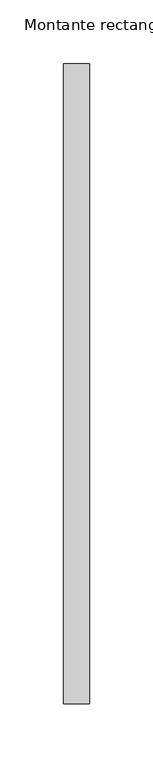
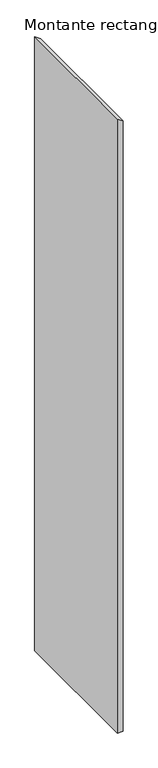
"""IFC4 building model written with IfcOpenShell, lengths in millimetres: member geometry, Montante rectangular : CIRCLES."""

import ifcopenshell
import ifcopenshell.guid

model = None  # the IFC model being written
_history = None  # IfcOwnerHistory: only IFC2X3 demands one
_inside = {}  # id of a spatial element -> (the spatial element, [elements in it])
_under = {}  # id of a project, library or spatial element -> (it, [spatial elements below it])
_declared = {}  # id of a project -> (the project, [libraries it declares])
_typed = {}  # id of a type object -> (the type object, [elements of that type])
_made_of = {}  # id of a material, layer set ... -> (it, [elements and type objects made of it])


def new_model(schema):
    """Start an empty IFC model of exactly this schema.

    Asked for "IFC4X3", IfcOpenShell would pick the latest addendum, in which some entities
    have other attributes; the version numbers below select the first issue.
    IFC2X3 requires an IfcOwnerHistory on every rooted entity: one is made here for all.
    """
    global model, _history
    if schema == "IFC4X3":
        model = ifcopenshell.file(schema_version=(4, 3, 0, 0))
    else:
        model = ifcopenshell.file(schema=schema)
    _inside.clear()
    _under.clear()
    _declared.clear()
    _typed.clear()
    _made_of.clear()
    _history = None
    if model.schema == "IFC2X3":
        org = make("IfcOrganization", Name="unknown")
        user = make(
            "IfcPersonAndOrganization",
            ThePerson=make("IfcPerson", FamilyName="unknown"),
            TheOrganization=org,
        )
        app = make(
            "IfcApplication",
            ApplicationDeveloper=org,
            Version="unknown",
            ApplicationFullName="unknown",
            ApplicationIdentifier="unknown",
        )
        _history = make(
            "IfcOwnerHistory",
            OwningUser=user,
            OwningApplication=app,
            ChangeAction="ADDED",
            CreationDate=0,
        )
    return model


def make(cls, **values):
    """One entity of the class cls with the attributes given. An attribute that is None is left unset."""
    return model.create_entity(
        cls, **{name: value for name, value in values.items() if value is not None}
    )


def rooted(cls, **values):
    """An entity with a GlobalId (a new one), such as an element, a storey or a relation."""
    return make(cls, GlobalId=ifcopenshell.guid.new(), OwnerHistory=_history, **values)


def si_unit(unit_type, name, prefix=None):
    """IfcSIUnit, for example si_unit("LENGTHUNIT", "METRE", prefix="MILLI")."""
    return make("IfcSIUnit", UnitType=unit_type, Prefix=prefix, Name=name)


def assignment(units):
    """IfcUnitAssignment: the units of a project."""
    return None if units is None else make("IfcUnitAssignment", Units=units)


def point(xyz):
    """IfcCartesianPoint."""
    return None if xyz is None else make("IfcCartesianPoint", Coordinates=xyz)


def direction(xyz):
    """IfcDirection."""
    return None if xyz is None else make("IfcDirection", DirectionRatios=xyz)


def frame(location, z_axis=None, x_axis=None):
    """IfcAxis2Placement3D, a coordinate frame: its origin and axes. An axis left out is left unset."""
    return make(
        "IfcAxis2Placement3D",
        Location=point(location),
        Axis=direction(z_axis),
        RefDirection=direction(x_axis),
    )


def origin():
    """The frame at (0, 0, 0) with its axes left unset."""
    return frame((0.0, 0.0, 0.0))


def place(relative_to, where):
    """IfcLocalPlacement: puts the frame where relative to a parent placement (None: the world)."""
    return make(
        "IfcLocalPlacement", PlacementRelTo=relative_to, RelativePlacement=where
    )


def context(
    kind, dimensions, precision=None, world=None, true_north=None, identifier=None
):
    """IfcGeometricRepresentationContext, for example the 3D "Model" context."""
    return make(
        "IfcGeometricRepresentationContext",
        ContextIdentifier=identifier,
        ContextType=kind,
        CoordinateSpaceDimension=dimensions,
        Precision=precision,
        WorldCoordinateSystem=world,
        TrueNorth=true_north,
    )


def project(units=None, contexts=None):
    """IfcProject with its units and contexts."""
    return rooted(
        "IfcProject",
        Name="project",
        RepresentationContexts=contexts,
        UnitsInContext=assignment(units),
    )


def spatial(cls, under=None, at=None, **own):
    """A site, building, storey or space (cls), placed at a placement, below another one or the project."""
    s = rooted(cls, ObjectPlacement=at, **own)
    if under is not None:
        _under.setdefault(under.id(), (under, []))[1].append(s)
    return s


def polyline(points):
    """IfcPolyline through the points."""
    return make("IfcPolyline", Points=[point(p) for p in points])


def outline(outer, holes=None, kind="AREA"):
    """IfcArbitraryClosedProfileDef: a profile drawn as a closed curve; with holes, ...WithVoids."""
    if holes is None:
        return make("IfcArbitraryClosedProfileDef", ProfileType=kind, OuterCurve=outer)
    return make(
        "IfcArbitraryProfileDefWithVoids",
        ProfileType=kind,
        OuterCurve=outer,
        InnerCurves=holes,
    )


def extrude(swept, where, along, depth):
    """IfcExtrudedAreaSolid: the profile swept, set in the frame where, extruded along a direction by depth."""
    return make(
        "IfcExtrudedAreaSolid",
        SweptArea=swept,
        Position=where,
        ExtrudedDirection=direction(along),
        Depth=depth,
    )


def shape(context_of_items, identifier, shape_type, items):
    """IfcShapeRepresentation: the items that make up one representation, for example the "Body"."""
    return make(
        "IfcShapeRepresentation",
        ContextOfItems=context_of_items,
        RepresentationIdentifier=identifier,
        RepresentationType=shape_type,
        Items=items,
    )


def source(mapping_origin, context_of_items, identifier, shape_type, items):
    """IfcRepresentationMap: a shape defined once, which mapped items show again and again."""
    return make(
        "IfcRepresentationMap",
        MappingOrigin=mapping_origin,
        MappedRepresentation=shape(context_of_items, identifier, shape_type, items),
    )


def transform(
    local_origin,
    x_axis=None,
    y_axis=None,
    z_axis=None,
    scale=None,
    scale2=None,
    scale3=None,
    uniform=True,
):
    """IfcCartesianTransformationOperator3D, or its non-uniform kind. x_axis, y_axis, z_axis: its Axis1, 2, 3."""
    if uniform:
        return make(
            "IfcCartesianTransformationOperator3D",
            Axis1=direction(x_axis),
            Axis2=direction(y_axis),
            LocalOrigin=point(local_origin),
            Scale=scale,
            Axis3=direction(z_axis),
        )
    return make(
        "IfcCartesianTransformationOperator3DnonUniform",
        Axis1=direction(x_axis),
        Axis2=direction(y_axis),
        LocalOrigin=point(local_origin),
        Scale=scale,
        Axis3=direction(z_axis),
        Scale2=scale2,
        Scale3=scale3,
    )


def mapped(mapping_source, mapping_target):
    """IfcMappedItem: shows the shape of a source again, moved by a transform."""
    return make(
        "IfcMappedItem", MappingSource=mapping_source, MappingTarget=mapping_target
    )


def made_of(thing, what):
    """Note that an element or type object is made of a material, layer set ...; save() writes the relation."""
    if what is not None:
        _made_of.setdefault(what.id(), (what, []))[1].append(thing)
    return thing


def element(
    cls,
    number,
    at=None,
    inside=None,
    cuts=None,
    type_object=None,
    material=None,
    context=None,
    identifier="Body",
    shape_type=None,
    held_by="IfcProductDefinitionShape",
    body=None,
    shapes=None,
    **own,
):
    """One element of the class cls, such as IfcWall. Its Tag is "e" and its number.

    at: its placement. inside: the storey or other place that contains it. cuts: it is an
    opening in that element (IfcRelVoidsElement). A single representation is given by context,
    identifier, shape_type and body (its items); several are given by shapes. held_by: the class
    of the entity that holds the representations. save() writes the other relations.
    """
    e = rooted(cls, Tag="e%d" % number, ObjectPlacement=at, **own)
    if body is not None:
        shapes = [shape(context, identifier, shape_type, body)]
    if shapes is not None:
        e.Representation = make(held_by, Representations=shapes)
    if inside is not None:
        _inside.setdefault(inside.id(), (inside, []))[1].append(e)
    if cuts is not None:
        rooted(
            "IfcRelVoidsElement", RelatingBuildingElement=cuts, RelatedOpeningElement=e
        )
    if type_object is not None:
        _typed.setdefault(type_object.id(), (type_object, []))[1].append(e)
    return made_of(e, material)


def aggregate(whole, parts):
    """IfcRelAggregates: a whole, such as a stair, and the parts it consists of."""
    return rooted("IfcRelAggregates", RelatingObject=whole, RelatedObjects=parts)


def save(model, path):
    """Write the relations noted so far, then the file.

    IfcRelAggregates (storeys below a building ...), IfcRelContainedInSpatialStructure (elements
    in a storey), IfcRelDefinesByType, IfcRelAssociatesMaterial and IfcRelDeclares: one each for
    every whole, place, type object, material and project.
    """
    for whole, parts in _under.values():
        aggregate(whole, parts)
    for where, things in _inside.values():
        rooted(
            "IfcRelContainedInSpatialStructure",
            RelatedElements=things,
            RelatingStructure=where,
        )
    for kind, things in _typed.values():
        rooted("IfcRelDefinesByType", RelatedObjects=things, RelatingType=kind)
    for what, things in _made_of.values():
        rooted("IfcRelAssociatesMaterial", RelatedObjects=things, RelatingMaterial=what)
    for by, libraries in _declared.values():
        rooted("IfcRelDeclares", RelatingContext=by, RelatedDefinitions=libraries)
    model.write(path)


def montante_rectangular_b5605255(model_context):
    return source(origin(), model_context, "Body", "SweptSolid", [
        extrude(outline(polyline([(-30.7665059, 10.0), (-17.3736488, -10.0), (-2280.8783322, -10.0), (-2280.8783322, 10.0), (-30.7665059, 10.0)])), frame((0.0, -250.0, 0.0), z_axis=(0.0, 1.0, 0.0), x_axis=(0.0, 0.0, 1.0)), (0.0, 0.0, 1.0), 500.0),
    ])


if __name__ == "__main__":
    model = new_model("IFC4")
    model_context = context("Model", 3, world=origin())
    ifc_project = project(units=[si_unit("LENGTHUNIT", "METRE", prefix="MILLI")], contexts=[model_context])
    site = spatial("IfcSite", under=ifc_project)
    building = spatial("IfcBuilding", under=site)
    placement = place(None, origin())
    montante_rectangular_shape = montante_rectangular_b5605255(model_context)
    element("IfcMember", 1, ObjectType="Montante rectangular : CIRCLES", at=placement, inside=building, context=model_context, shape_type="MappedRepresentation", body=[
        mapped(montante_rectangular_shape, transform((0.0, 0.0, 0.0), x_axis=(1.0, 0.0, 0.0), y_axis=(0.0, 1.0, 0.0), z_axis=(0.0, 0.0, 1.0))),
    ])
    save(model, "model.ifc")
